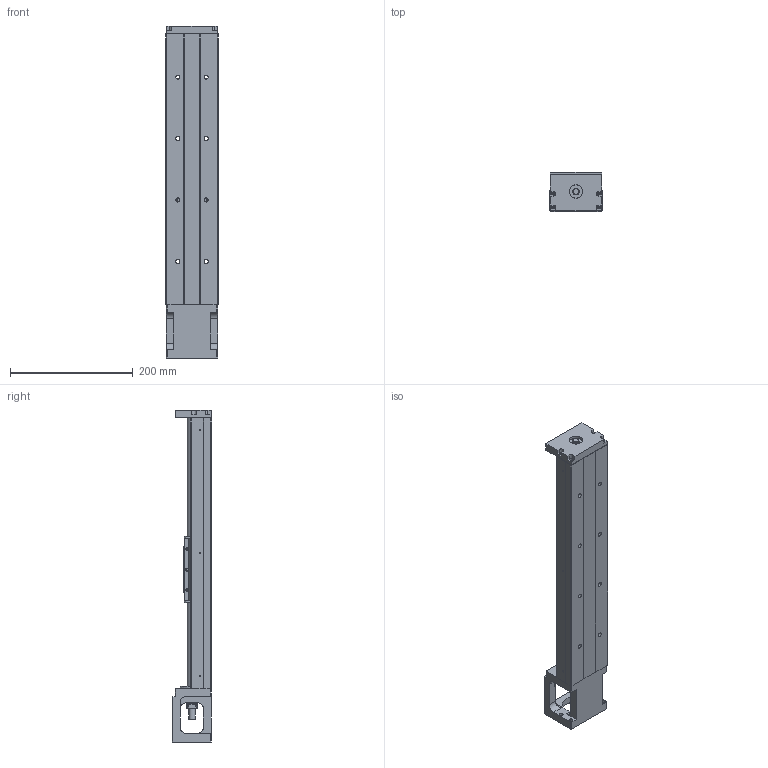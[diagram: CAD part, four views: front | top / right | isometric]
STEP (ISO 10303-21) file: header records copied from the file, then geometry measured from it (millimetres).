
FILE_DESCRIPTION(/* description */ (''),/* implementation_level */ '2;1');
FILE_NAME(/* name */ 'KP46N-440-D.stp',/* time_stamp */ '2020-06-05T09:51:54+08:00',/* author */ (''),/* organization */ (''),/* preprocessor_version */ 'ST-DEVELOPER v14',/* originating_system */ 'SIEMENS PLM Software NX 8.0',/* authorisation */ '');
FILE_SCHEMA (('AUTOMOTIVE_DESIGN { 1 0 10303 214 3 1 1 1 }'));
Length unit declared in the file: millimetre
Products named in the file (1): model1
Bounding box: 86 x 64 x 540 mm (x, y, z)
Volume: 1196463.1 mm3; surface area: 254044.7 mm2
Topology: 5 solids, 17 shells, 614 faces, 1613 edges, 1061 vertices
Faces by surface type: plane 286, cylinder 219, cone 60, bspline 41, torus 8
Full cylindrical faces by diameter (mm): 2.11 x4, 2.15 x6, 2.42 x8, 3 x6, 3.2 x4, 3.3 x8, 3.4 x8, 4.2 x4, 4.5 x8, 5 x10, 6 x8, 6.35 x2, 6.6 x8, 9.6 x1, 10 x4, 11 x8, 12 x1, 14.95 x2, 15 x1, 16 x2, 22 x3, 27.5 x1, 44 x1, 50 x1
Entity records: 29111 total; most frequent: CARTESIAN_POINT 12534, ORIENTED_EDGE 2752, DIRECTION 2699, EDGE_CURVE 1376, AXIS2_PLACEMENT_3D 998, VERTEX_POINT 991, EDGE_LOOP 859, LINE 703
